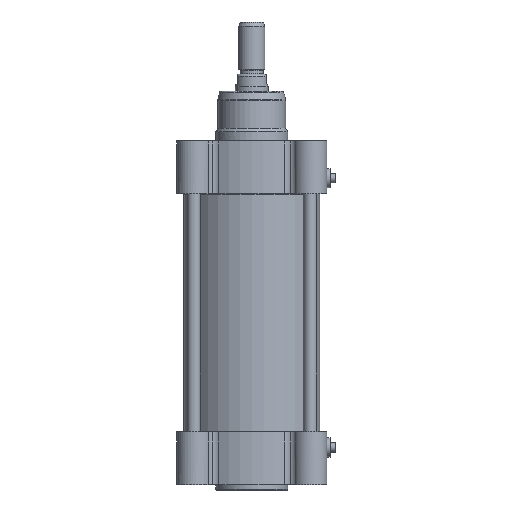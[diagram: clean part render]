
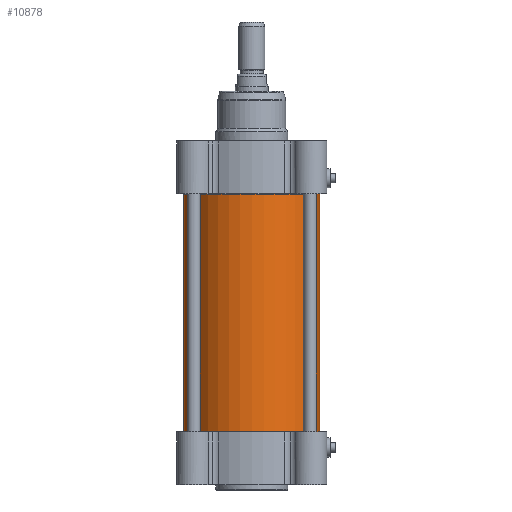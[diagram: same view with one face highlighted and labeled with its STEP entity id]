
A CAD part, front view. The second image highlights one B-rep face of the part: STEP entity #10878.
In plain terms, the highlighted cylindrical face has radius 52 mm (diameter 104 mm), a partial arc.
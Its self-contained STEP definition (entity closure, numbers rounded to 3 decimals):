
#680 = AXIS2_PLACEMENT_3D ( 'NONE', #24799, #21995, #14904 ) ;
#934 = ORIENTED_EDGE ( 'NONE', *, *, #30559, .F. ) ;
#1137 = DIRECTION ( 'NONE',  ( 0., 0., 1. ) ) ;
#1770 = LINE ( 'NONE', #31163, #22655 ) ;
#1941 = EDGE_CURVE ( 'NONE', #29122, #12142, #18182, .T. ) ;
#1955 = ORIENTED_EDGE ( 'NONE', *, *, #24141, .F. ) ;
#2453 = CYLINDRICAL_SURFACE ( 'NONE', #27555, 52. ) ;
#5592 = CARTESIAN_POINT ( 'NONE',  ( 0., 0., 0. ) ) ;
#5929 = CIRCLE ( 'NONE', #680, 52. ) ;
#6816 = EDGE_CURVE ( 'NONE', #29122, #30718, #11564, .T. ) ;
#6887 = EDGE_LOOP ( 'NONE', ( #9399, #22398, #934, #1955 ) ) ;
#9399 = ORIENTED_EDGE ( 'NONE', *, *, #6816, .F. ) ;
#10878 = ADVANCED_FACE ( 'NONE', ( #17971 ), #2453, .T. ) ;
#11037 = CARTESIAN_POINT ( 'NONE',  ( 0., 0., 0.2 ) ) ;
#11528 = CARTESIAN_POINT ( 'NONE',  ( -52., 0., 181.8 ) ) ;
#11564 = CIRCLE ( 'NONE', #22646, 52. ) ;
#12142 = VERTEX_POINT ( 'NONE', #15456 ) ;
#12520 = DIRECTION ( 'NONE',  ( 0., 0., 1. ) ) ;
#12937 = VERTEX_POINT ( 'NONE', #11528 ) ;
#13160 = CARTESIAN_POINT ( 'NONE',  ( 52., 0., 0.2 ) ) ;
#14340 = CARTESIAN_POINT ( 'NONE',  ( -52., 0., 0.2 ) ) ;
#14904 = DIRECTION ( 'NONE',  ( -1., 0., 0. ) ) ;
#15456 = CARTESIAN_POINT ( 'NONE',  ( 52., 0., 181.8 ) ) ;
#16161 = DIRECTION ( 'NONE',  ( -1., 0., 0. ) ) ;
#17971 = FACE_OUTER_BOUND ( 'NONE', #6887, .T. ) ;
#18182 = LINE ( 'NONE', #30720, #23030 ) ;
#21107 = DIRECTION ( 'NONE',  ( 0., 0., -1. ) ) ;
#21995 = DIRECTION ( 'NONE',  ( 0., 0., 1. ) ) ;
#22398 = ORIENTED_EDGE ( 'NONE', *, *, #1941, .T. ) ;
#22646 = AXIS2_PLACEMENT_3D ( 'NONE', #11037, #21107, #16161 ) ;
#22655 = VECTOR ( 'NONE', #1137, 1000. ) ;
#23030 = VECTOR ( 'NONE', #28248, 1000. ) ;
#23240 = DIRECTION ( 'NONE',  ( -1., 0., 0. ) ) ;
#24141 = EDGE_CURVE ( 'NONE', #30718, #12937, #1770, .T. ) ;
#24799 = CARTESIAN_POINT ( 'NONE',  ( 0., 0., 181.8 ) ) ;
#27555 = AXIS2_PLACEMENT_3D ( 'NONE', #5592, #12520, #23240 ) ;
#28248 = DIRECTION ( 'NONE',  ( 0., 0., 1. ) ) ;
#29122 = VERTEX_POINT ( 'NONE', #13160 ) ;
#30559 = EDGE_CURVE ( 'NONE', #12937, #12142, #5929, .T. ) ;
#30718 = VERTEX_POINT ( 'NONE', #14340 ) ;
#30720 = CARTESIAN_POINT ( 'NONE',  ( 52., 0., 0. ) ) ;
#31163 = CARTESIAN_POINT ( 'NONE',  ( -52., 0., 0. ) ) ;
